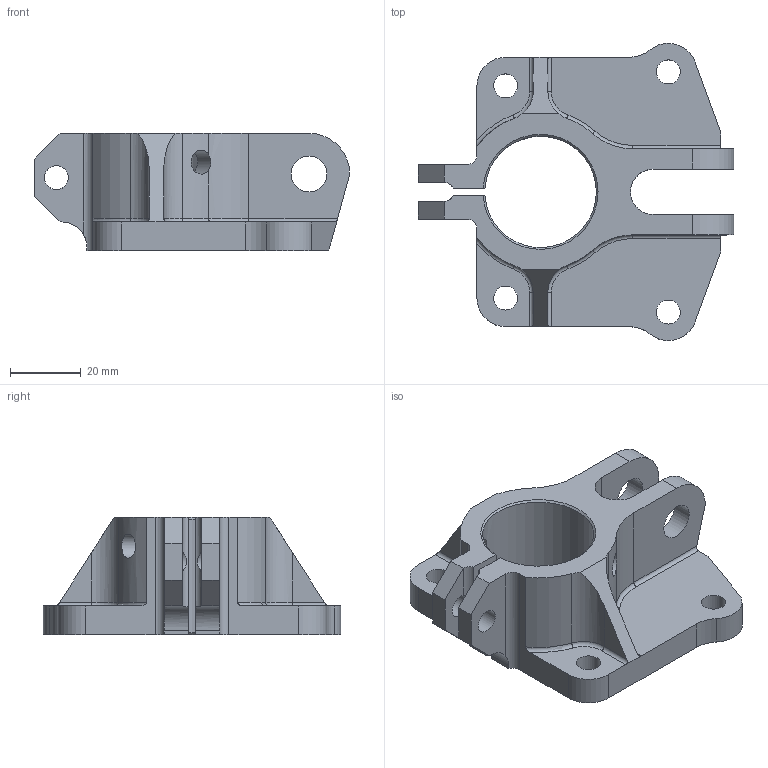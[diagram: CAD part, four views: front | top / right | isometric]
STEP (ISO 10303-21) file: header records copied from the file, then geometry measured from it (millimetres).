
FILE_DESCRIPTION(/* description */ (''),/* implementation_level */ '2;1');
FILE_NAME(/* name */ 'Embase_Amortisseur_A22-2010 v6.step',/* time_stamp */ '2026-01-11T18:57:32+01:00',/* author */ (''),/* organization */ (''),/* preprocessor_version */ 'ST-DEVELOPER v20.1',/* originating_system */ 'Autodesk Translation Framework v14.21.0.0',/* authorisation */ '');
FILE_SCHEMA (('AUTOMOTIVE_DESIGN { 1 0 10303 214 3 1 1 }'));
Length unit declared in the file: millimetre
Products named in the file (1): Embase_Amortisseur_A22-2010
Bounding box: 88.96 x 83.9 x 33.1 mm (x, y, z)
Volume: 64575.2 mm3; surface area: 22802.9 mm2
Topology: 1 solids, 1 shells, 94 faces, 272 edges, 177 vertices
Faces by surface type: cylinder 42, plane 40, torus 10, cone 2
Full cylindrical faces by diameter (mm): 6.756 x8, 10.084 x2
Entity records: 3381 total; most frequent: CARTESIAN_POINT 782, DIRECTION 545, ORIENTED_EDGE 544, EDGE_CURVE 272, AXIS2_PLACEMENT_3D 199, VERTEX_POINT 177, LINE 147, VECTOR 147
